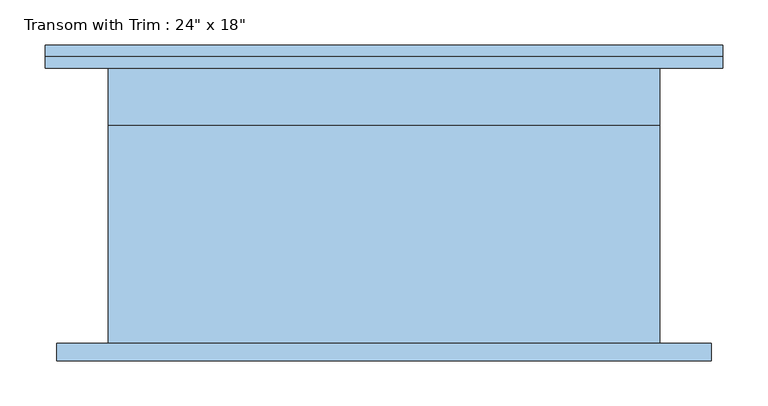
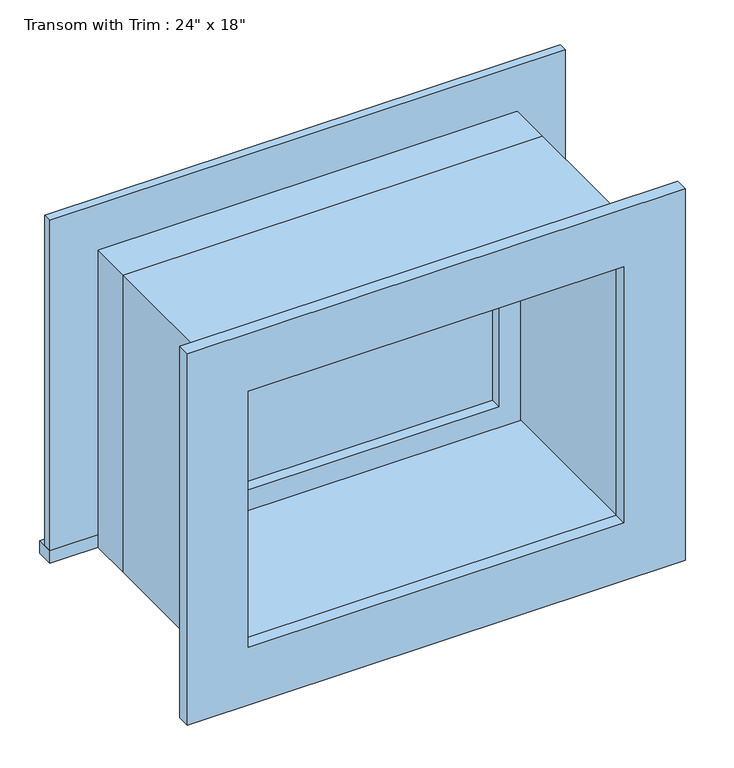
"""IFC4 building model written with IfcOpenShell, lengths in millimetres: window geometry."""

from ifc_helpers import new_model, si_unit, frame, origin, place, context, project, spatial, polyline, outline, extrude, source, transform, mapped, element, save


def window_0ba6dfd4(model_context):
    return source(origin(), model_context, "Body", "SweptSolid", [
        extrude(outline(polyline([(-412.75, 177.8), (336.55, 177.8), (336.55, 152.4), (-412.75, 152.4), (-412.75, 177.8)])), frame((0.0, 0.0, 2159.0), z_axis=(0.0, 0.0, 1.0), x_axis=(1.0, 0.0, 0.0)), (0.0, 0.0, 1.0), 19.05),
        extrude(outline(polyline([(2597.15, -323.85), (2597.15, 247.65), (2178.05, 247.65), (2178.05, 336.55), (2686.05, 336.55), (2686.05, -412.75), (2178.05, -412.75), (2178.05, -323.85), (2597.15, -323.85)])), frame((0.0, 152.4, 0.0), z_axis=(0.0, 1.0, 0.0), x_axis=(0.0, 0.0, 1.0)), (0.0, 0.0, 1.0), 12.7),
        extrude(outline(polyline([(2673.35, 323.85), (2673.35, -400.05), (2101.85, -400.05), (2101.85, 323.85), (2673.35, 323.85)]), holes=[polyline([(2584.45, 234.95), (2190.75, 234.95), (2190.75, -311.15), (2584.45, -311.15), (2584.45, 234.95)])]), frame((0.0, -171.45, 0.0), z_axis=(0.0, 1.0, 0.0), x_axis=(0.0, 0.0, 1.0)), (0.0, 0.0, 1.0), 19.05),
        extrude(outline(polyline([(203.2, 104.775), (-279.4, 104.775), (-279.4, 117.475), (203.2, 117.475), (203.2, 104.775)])), frame((0.0, 0.0, 2222.5), z_axis=(0.0, 0.0, 1.0), x_axis=(1.0, 0.0, 0.0)), (0.0, 0.0, 1.0), 330.2),
        extrude(outline(polyline([(2597.15, -323.85), (2178.05, -323.85), (2178.05, 247.65), (2597.15, 247.65), (2597.15, -323.85)]), holes=[polyline([(2552.7, -279.4), (2552.7, 203.2), (2222.5, 203.2), (2222.5, -279.4), (2552.7, -279.4)])]), frame((0.0, 88.9, 0.0), z_axis=(0.0, 1.0, 0.0), x_axis=(0.0, 0.0, 1.0)), (0.0, 0.0, 1.0), 44.45),
        extrude(outline(polyline([(2616.2, -342.9), (2159.0, -342.9), (2159.0, 266.7), (2616.2, 266.7), (2616.2, -342.9)]), holes=[polyline([(2584.45, -311.15), (2584.45, 234.95), (2190.75, 234.95), (2190.75, -311.15), (2584.45, -311.15)])]), frame((0.0, -152.4, 0.0), z_axis=(0.0, 1.0, 0.0), x_axis=(0.0, 0.0, 1.0)), (0.0, 0.0, 1.0), 241.3),
        extrude(outline(polyline([(2616.2, 266.7), (2616.2, -342.9), (2159.0, -342.9), (2159.0, 266.7), (2616.2, 266.7)]), holes=[polyline([(2597.15, 247.65), (2178.05, 247.65), (2178.05, -323.85), (2597.15, -323.85), (2597.15, 247.65)])]), frame((0.0, 88.9, 0.0), z_axis=(0.0, 1.0, 0.0), x_axis=(0.0, 0.0, 1.0)), (0.0, 0.0, 1.0), 63.5),
    ])


if __name__ == "__main__":
    model = new_model("IFC4")
    model_context = context("Model", 3, world=origin())
    ifc_project = project(units=[si_unit("LENGTHUNIT", "METRE", prefix="MILLI")], contexts=[model_context])
    site = spatial("IfcSite", under=ifc_project)
    building = spatial("IfcBuilding", under=site)
    placement = place(None, origin())
    window_shape = window_0ba6dfd4(model_context)
    element("IfcWindow", 1, ObjectType="Transom with Trim : 24\" x 18\"", at=placement, inside=building, context=model_context, shape_type="MappedRepresentation", body=[
        mapped(window_shape, transform((0.0, 0.0, 0.0), x_axis=(1.0, 0.0, 0.0), y_axis=(0.0, 1.0, 0.0), z_axis=(0.0, 0.0, 1.0))),
    ])
    save(model, "model.ifc")
